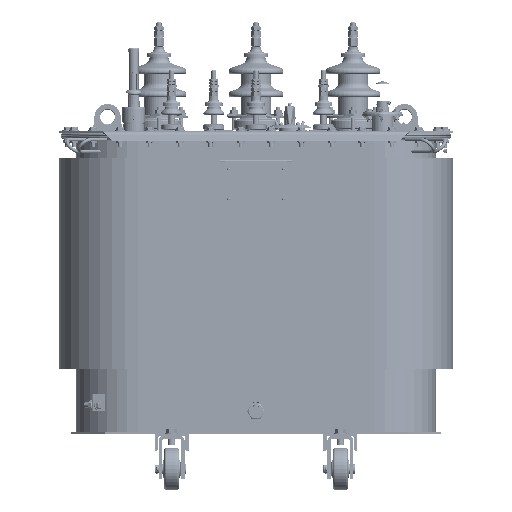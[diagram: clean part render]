
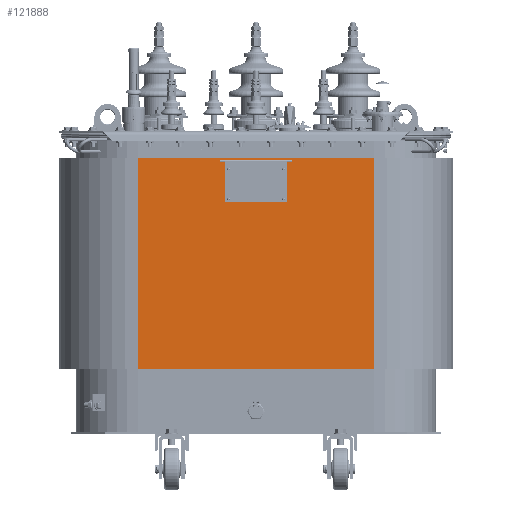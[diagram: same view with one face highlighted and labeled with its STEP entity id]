
A CAD part, front view. The second image highlights one B-rep face of the part: STEP entity #121888.
In plain terms, the highlighted planar face has unit normal (0, 1, 0).
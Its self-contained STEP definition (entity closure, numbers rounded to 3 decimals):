
#20944=FACE_OUTER_BOUND('',#29136,.T.);
#29136=EDGE_LOOP('',(#104202,#104203,#104204,#104205));
#36829=LINE('',#242864,#44530);
#36830=LINE('',#242866,#44531);
#36831=LINE('',#242868,#44532);
#36832=LINE('',#242869,#44533);
#44530=VECTOR('',#160753,10.);
#44531=VECTOR('',#160754,10.);
#44532=VECTOR('',#160755,10.);
#44533=VECTOR('',#160756,10.);
#55034=VERTEX_POINT('',#242862);
#55035=VERTEX_POINT('',#242863);
#55036=VERTEX_POINT('',#242865);
#55037=VERTEX_POINT('',#242867);
#71426=EDGE_CURVE('',#55034,#55035,#36829,.T.);
#71427=EDGE_CURVE('',#55035,#55036,#36830,.T.);
#71428=EDGE_CURVE('',#55036,#55037,#36831,.T.);
#71429=EDGE_CURVE('',#55037,#55034,#36832,.T.);
#104202=ORIENTED_EDGE('',*,*,#71426,.T.);
#104203=ORIENTED_EDGE('',*,*,#71427,.T.);
#104204=ORIENTED_EDGE('',*,*,#71428,.T.);
#104205=ORIENTED_EDGE('',*,*,#71429,.T.);
#107550=PLANE('',#132542);
#121888=ADVANCED_FACE('',(#20944),#107550,.F.);
#132542=AXIS2_PLACEMENT_3D('',#242861,#160751,#160752);
#160751=DIRECTION('center_axis',(0.,-1.,0.));
#160752=DIRECTION('ref_axis',(-1.,0.,0.));
#160753=DIRECTION('',(0.,0.,1.));
#160754=DIRECTION('',(1.,0.,0.));
#160755=DIRECTION('',(0.,0.,-1.));
#160756=DIRECTION('',(-1.,0.,0.));
#242861=CARTESIAN_POINT('Origin',(280.,-187.,400.));
#242862=CARTESIAN_POINT('',(-280.,-187.,150.));
#242863=CARTESIAN_POINT('',(-280.,-187.,650.));
#242864=CARTESIAN_POINT('',(-280.,-187.,400.));
#242865=CARTESIAN_POINT('',(280.,-187.,650.));
#242866=CARTESIAN_POINT('',(280.,-187.,650.));
#242867=CARTESIAN_POINT('',(280.,-187.,150.));
#242868=CARTESIAN_POINT('',(280.,-187.,400.));
#242869=CARTESIAN_POINT('',(280.,-187.,150.));
